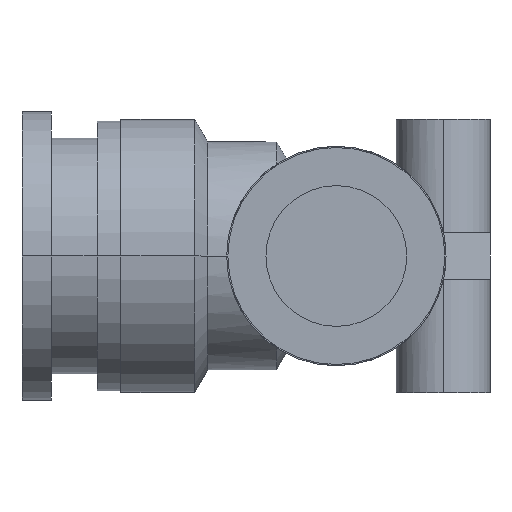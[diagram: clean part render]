
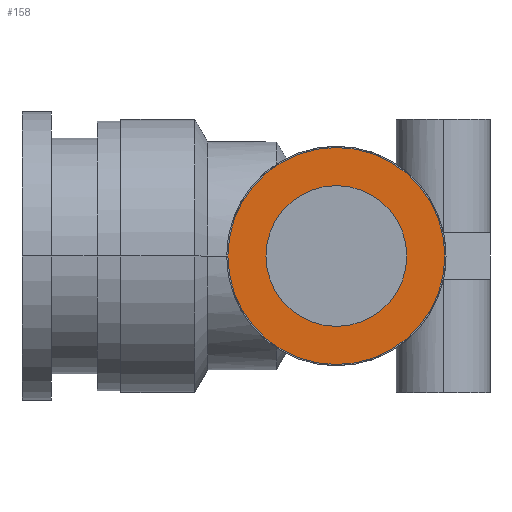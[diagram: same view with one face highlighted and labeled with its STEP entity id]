
A CAD part, left-side view. The second image highlights one B-rep face of the part: STEP entity #158.
In plain terms, the highlighted planar face has unit normal (-1, 0, 0).
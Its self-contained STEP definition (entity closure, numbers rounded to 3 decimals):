
#158 = ADVANCED_FACE( '', ( #339, #340 ), #341, .T. );
#339 = FACE_BOUND( '', #521, .T. );
#340 = FACE_OUTER_BOUND( '', #522, .T. );
#341 = PLANE( '', #523 );
#521 = EDGE_LOOP( '', ( #1165, #1166 ) );
#522 = EDGE_LOOP( '', ( #1167, #1168 ) );
#523 = AXIS2_PLACEMENT_3D( '', #1169, #1170, #1171 );
#1165 = ORIENTED_EDGE( '', *, *, #1275, .T. );
#1166 = ORIENTED_EDGE( '', *, *, #1265, .T. );
#1167 = ORIENTED_EDGE( '', *, *, #1175, .T. );
#1168 = ORIENTED_EDGE( '', *, *, #1369, .T. );
#1169 = CARTESIAN_POINT( '', ( -26.7, 4.625, 0. ) );
#1170 = DIRECTION( '', ( -1., 0., 0. ) );
#1171 = DIRECTION( '', ( 0., 1., 0. ) );
#1175 = EDGE_CURVE( '', #1371, #1375, #1377, .T. );
#1265 = EDGE_CURVE( '', #1549, #1546, #1550, .T. );
#1275 = EDGE_CURVE( '', #1546, #1549, #1565, .T. );
#1369 = EDGE_CURVE( '', #1375, #1371, #1695, .T. );
#1371 = VERTEX_POINT( '', #1697 );
#1375 = VERTEX_POINT( '', #1702 );
#1377 = CIRCLE( '', #1705, 9.25 );
#1546 = VERTEX_POINT( '', #1982 );
#1549 = VERTEX_POINT( '', #1986 );
#1550 = CIRCLE( '', #1987, 6. );
#1565 = CIRCLE( '', #2005, 6. );
#1695 = CIRCLE( '', #2399, 9.25 );
#1697 = CARTESIAN_POINT( '', ( -26.7, 9.25, 0. ) );
#1702 = CARTESIAN_POINT( '', ( -26.7, -9.25, 0. ) );
#1705 = AXIS2_PLACEMENT_3D( '', #2405, #2406, #2407 );
#1982 = CARTESIAN_POINT( '', ( -26.7, 6., 0. ) );
#1986 = CARTESIAN_POINT( '', ( -26.7, -6., 0. ) );
#1987 = AXIS2_PLACEMENT_3D( '', #2571, #2572, #2573 );
#2005 = AXIS2_PLACEMENT_3D( '', #2595, #2596, #2597 );
#2399 = AXIS2_PLACEMENT_3D( '', #2763, #2764, #2765 );
#2405 = CARTESIAN_POINT( '', ( -26.7, 0., 0. ) );
#2406 = DIRECTION( '', ( -1., 0., 0. ) );
#2407 = DIRECTION( '', ( 0., 1., 0. ) );
#2571 = CARTESIAN_POINT( '', ( -26.7, 0., 0. ) );
#2572 = DIRECTION( '', ( 1., 0., 0. ) );
#2573 = DIRECTION( '', ( 0., 1., 0. ) );
#2595 = CARTESIAN_POINT( '', ( -26.7, 0., 0. ) );
#2596 = DIRECTION( '', ( 1., 0., 0. ) );
#2597 = DIRECTION( '', ( 0., 1., 0. ) );
#2763 = CARTESIAN_POINT( '', ( -26.7, 0., 0. ) );
#2764 = DIRECTION( '', ( -1., 0., 0. ) );
#2765 = DIRECTION( '', ( 0., 1., 0. ) );
